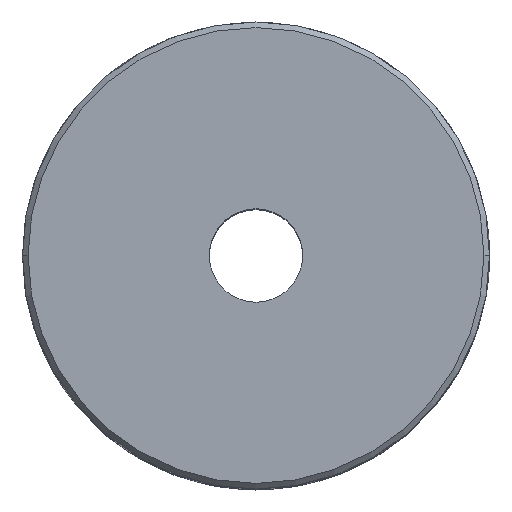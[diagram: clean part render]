
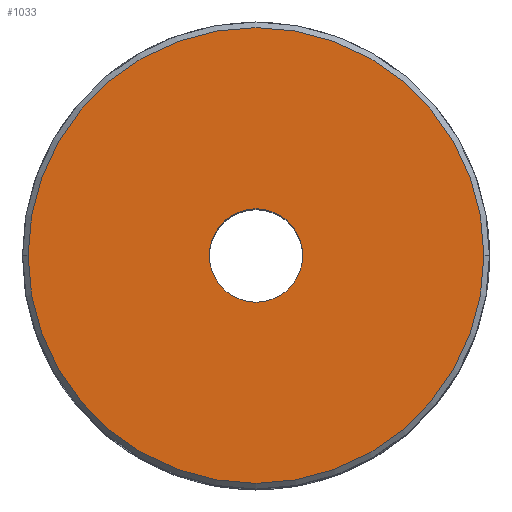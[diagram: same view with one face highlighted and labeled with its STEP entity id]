
A CAD part, top view. The second image highlights one B-rep face of the part: STEP entity #1033.
In plain terms, the highlighted planar face has unit normal (0, 0, 1).
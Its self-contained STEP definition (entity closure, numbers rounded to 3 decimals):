
#82 = DIRECTION ( 'NONE',  ( 1., 0., 0. ) ) ;
#83 = DIRECTION ( 'NONE',  ( 0., 0., 1. ) ) ;
#84 = CARTESIAN_POINT ( 'NONE',  ( 0., 0., 31. ) ) ;
#85 = AXIS2_PLACEMENT_3D ( 'NONE', #84, #83, #82 ) ;
#86 = CIRCLE ( 'NONE', #85, 2.5 ) ;
#92 = DIRECTION ( 'NONE',  ( 1., 0., 0. ) ) ;
#93 = DIRECTION ( 'NONE',  ( 0., 0., 1. ) ) ;
#94 = AXIS2_PLACEMENT_3D ( 'NONE', #99, #93, #92 ) ;
#95 = CIRCLE ( 'NONE', #94, 12.2 ) ;
#99 = CARTESIAN_POINT ( 'NONE',  ( 0., 0., 31. ) ) ;
#518 = DIRECTION ( 'NONE',  ( 1., 0., 0. ) ) ;
#519 = DIRECTION ( 'NONE',  ( 0., 0., 1. ) ) ;
#520 = CARTESIAN_POINT ( 'NONE',  ( 0., 0., 31. ) ) ;
#521 = AXIS2_PLACEMENT_3D ( 'NONE', #520, #519, #518 ) ;
#522 = PLANE ( 'NONE',  #521 ) ;
#523 = FACE_BOUND ( 'NONE', #934, .T. ) ;
#524 = FACE_OUTER_BOUND ( 'NONE', #1034, .T. ) ;
#688 = CARTESIAN_POINT ( 'NONE',  ( -12.2, 0., 31. ) ) ;
#689 = CARTESIAN_POINT ( 'NONE',  ( 12.2, 0., 31. ) ) ;
#690 = DIRECTION ( 'NONE',  ( 1., 0., 0. ) ) ;
#691 = DIRECTION ( 'NONE',  ( 0., 0., 1. ) ) ;
#692 = CARTESIAN_POINT ( 'NONE',  ( 0., 0., 31. ) ) ;
#693 = AXIS2_PLACEMENT_3D ( 'NONE', #692, #691, #690 ) ;
#698 = CIRCLE ( 'NONE', #693, 12.2 ) ;
#767 = CARTESIAN_POINT ( 'NONE',  ( -2.5, 0., 31. ) ) ;
#931 = ORIENTED_EDGE ( 'NONE', *, *, #932, .T. ) ;
#932 = EDGE_CURVE ( 'NONE', #1962, #1961, #95, .T. ) ;
#933 = ORIENTED_EDGE ( 'NONE', *, *, #1960, .T. ) ;
#934 = EDGE_LOOP ( 'NONE', ( #935, #940 ) ) ;
#935 = ORIENTED_EDGE ( 'NONE', *, *, #939, .F. ) ;
#939 = EDGE_CURVE ( 'NONE', #2091, #1907, #86, .T. ) ;
#940 = ORIENTED_EDGE ( 'NONE', *, *, #2090, .F. ) ;
#1033 = ADVANCED_FACE ( 'NONE', ( #524, #523 ), #522, .T. ) ;
#1034 = EDGE_LOOP ( 'NONE', ( #931, #933 ) ) ;
#1907 = VERTEX_POINT ( 'NONE', #767 ) ;
#1960 = EDGE_CURVE ( 'NONE', #1961, #1962, #698, .T. ) ;
#1961 = VERTEX_POINT ( 'NONE', #689 ) ;
#1962 = VERTEX_POINT ( 'NONE', #688 ) ;
#2090 = EDGE_CURVE ( 'NONE', #1907, #2091, #2463, .T. ) ;
#2091 = VERTEX_POINT ( 'NONE', #2470 ) ;
#2453 = CARTESIAN_POINT ( 'NONE',  ( 0., 0., 31. ) ) ;
#2461 = DIRECTION ( 'NONE',  ( 0., 0., 1. ) ) ;
#2462 = DIRECTION ( 'NONE',  ( 1., 0., 0. ) ) ;
#2463 = CIRCLE ( 'NONE', #2465, 2.5 ) ;
#2465 = AXIS2_PLACEMENT_3D ( 'NONE', #2453, #2461, #2462 ) ;
#2470 = CARTESIAN_POINT ( 'NONE',  ( 2.5, 0., 31. ) ) ;
